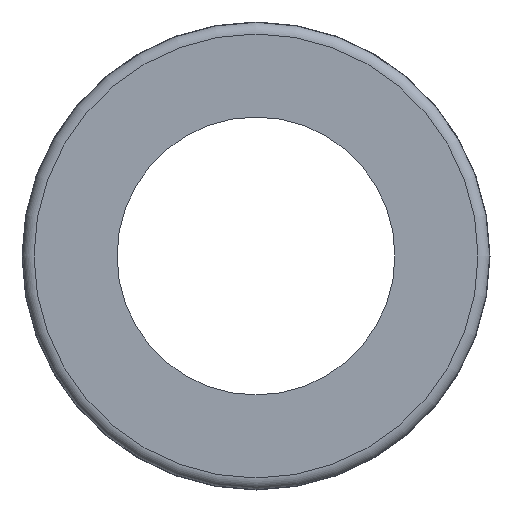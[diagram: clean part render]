
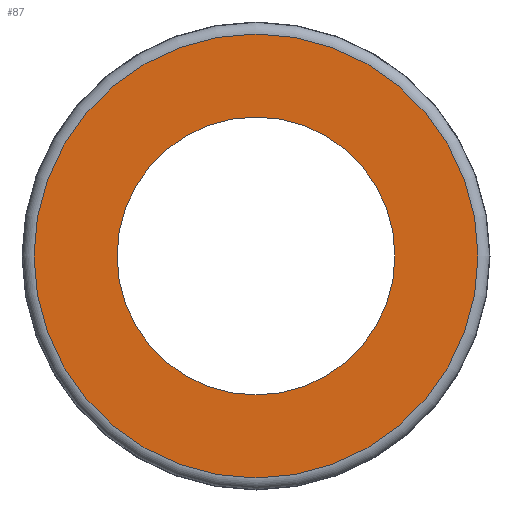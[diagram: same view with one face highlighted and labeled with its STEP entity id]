
A CAD part, front view. The second image highlights one B-rep face of the part: STEP entity #87.
In plain terms, the highlighted planar face has unit normal (0, -1, 0).
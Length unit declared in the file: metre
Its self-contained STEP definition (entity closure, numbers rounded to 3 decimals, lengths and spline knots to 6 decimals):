
#87 = ADVANCED_FACE( '', ( #127, #128 ), #129, .T. );
#127 = FACE_BOUND( '', #183, .T. );
#128 = FACE_OUTER_BOUND( '', #184, .T. );
#129 = PLANE( '', #185 );
#183 = EDGE_LOOP( '', ( #259 ) );
#184 = EDGE_LOOP( '', ( #260 ) );
#185 = AXIS2_PLACEMENT_3D( '', #261, #262, #263 );
#259 = ORIENTED_EDGE( '', *, *, #314, .F. );
#260 = ORIENTED_EDGE( '', *, *, #302, .T. );
#261 = CARTESIAN_POINT( '', ( 0., 0., 0. ) );
#262 = DIRECTION( '', ( 0., -1., 0. ) );
#263 = DIRECTION( '', ( 0., 0., -1. ) );
#302 = EDGE_CURVE( '', #323, #323, #324, .T. );
#314 = EDGE_CURVE( '', #343, #343, #344, .T. );
#323 = VERTEX_POINT( '', #359 );
#324 = CIRCLE( '', #360, 0.075897 );
#343 = VERTEX_POINT( '', #379 );
#344 = CIRCLE( '', #380, 0.0475 );
#359 = CARTESIAN_POINT( '', ( 0., 0., -0.075897 ) );
#360 = AXIS2_PLACEMENT_3D( '', #396, #397, #398 );
#379 = CARTESIAN_POINT( '', ( 0., 0., -0.0475 ) );
#380 = AXIS2_PLACEMENT_3D( '', #426, #427, #428 );
#396 = CARTESIAN_POINT( '', ( 0., 0., 0. ) );
#397 = DIRECTION( '', ( 0., -1., 0. ) );
#398 = DIRECTION( '', ( 0., 0., -1. ) );
#426 = CARTESIAN_POINT( '', ( 0., 0., 0. ) );
#427 = DIRECTION( '', ( 0., -1., 0. ) );
#428 = DIRECTION( '', ( 0., 0., -1. ) );
